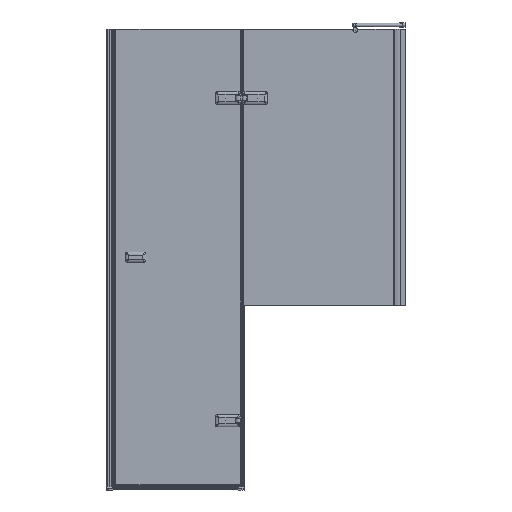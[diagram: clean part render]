
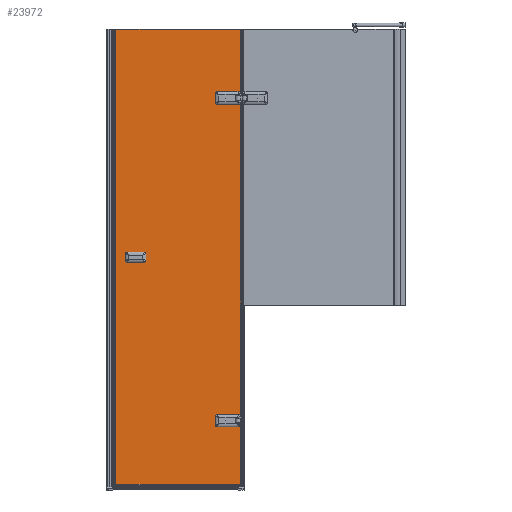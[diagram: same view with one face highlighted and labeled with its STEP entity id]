
A CAD part, front view. The second image highlights one B-rep face of the part: STEP entity #23972.
In plain terms, the highlighted planar face has unit normal (0, -1, 0) as drawn and (0, 1, 0) by its records, which use the part's own axes.
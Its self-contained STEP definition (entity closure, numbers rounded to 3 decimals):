
#1404=LINE($,#35611,#3623);
#1408=LINE($,#35623,#3627);
#1413=LINE($,#35638,#3632);
#1417=LINE($,#35650,#3636);
#1418=LINE($,#35663,#3637);
#1421=LINE($,#35669,#3640);
#1424=LINE($,#35685,#3643);
#1429=LINE($,#35694,#3648);
#1430=LINE($,#35697,#3649);
#1431=LINE($,#35699,#3650);
#1432=LINE($,#35700,#3651);
#1433=LINE($,#35701,#3652);
#3623=VECTOR($,#28213,18.);
#3627=VECTOR($,#28225,32.);
#3632=VECTOR($,#28238,18.);
#3636=VECTOR($,#28250,32.);
#3637=VECTOR($,#28265,32.);
#3640=VECTOR($,#28270,32.);
#3643=VECTOR($,#28287,261.);
#3648=VECTOR($,#28294,281.);
#3649=VECTOR($,#28297,550.);
#3650=VECTOR($,#28298,1980.);
#3651=VECTOR($,#28299,550.);
#3652=VECTOR($,#28300,1362.);
#5830=PLANE($,#25581);
#6643=FACE_BOUND($,#8425,.T.);
#6644=FACE_BOUND($,#8426,.T.);
#6645=FACE_BOUND($,#8427,.T.);
#6646=FACE_BOUND($,#8428,.T.);
#6647=FACE_BOUND($,#8429,.T.);
#8425=EDGE_LOOP($,(#17068));
#8426=EDGE_LOOP($,(#17069));
#8427=EDGE_LOOP($,(#17070,#17071,#17072,#17073,#17074,#17075,#17076,#17077,
#17078,#17079,#17080,#17081,#17082,#17083,#17084,#17085));
#8428=EDGE_LOOP($,(#17086));
#8429=EDGE_LOOP($,(#17087));
#10137=CIRCLE($,#25551,10.);
#10139=CIRCLE($,#25555,10.);
#10141=CIRCLE($,#25559,10.);
#10143=CIRCLE($,#25563,10.);
#10144=CIRCLE($,#25566,5.5);
#10146=CIRCLE($,#25569,5.5);
#10148=CIRCLE($,#25574,8.);
#10150=CIRCLE($,#25577,8.);
#11147=VERTEX_POINT($,#35601);
#11148=VERTEX_POINT($,#35603);
#11150=VERTEX_POINT($,#35609);
#11152=VERTEX_POINT($,#35615);
#11154=VERTEX_POINT($,#35621);
#11157=VERTEX_POINT($,#35628);
#11158=VERTEX_POINT($,#35630);
#11160=VERTEX_POINT($,#35636);
#11162=VERTEX_POINT($,#35642);
#11164=VERTEX_POINT($,#35648);
#11165=VERTEX_POINT($,#35652);
#11167=VERTEX_POINT($,#35657);
#11169=VERTEX_POINT($,#35662);
#11171=VERTEX_POINT($,#35668);
#11173=VERTEX_POINT($,#35674);
#11175=VERTEX_POINT($,#35679);
#11177=VERTEX_POINT($,#35684);
#11180=VERTEX_POINT($,#35692);
#11181=VERTEX_POINT($,#35696);
#11182=VERTEX_POINT($,#35698);
#13514=EDGE_CURVE($,#11147,#11148,#10137,.T.);
#13518=EDGE_CURVE($,#11147,#11150,#1404,.T.);
#13521=EDGE_CURVE($,#11152,#11150,#10139,.T.);
#13524=EDGE_CURVE($,#11152,#11154,#1408,.T.);
#13527=EDGE_CURVE($,#11157,#11158,#10141,.T.);
#13531=EDGE_CURVE($,#11157,#11160,#1413,.T.);
#13534=EDGE_CURVE($,#11162,#11160,#10143,.T.);
#13537=EDGE_CURVE($,#11162,#11164,#1417,.T.);
#13538=EDGE_CURVE($,#11165,#11165,#10144,.T.);
#13540=EDGE_CURVE($,#11167,#11167,#10146,.T.);
#13542=EDGE_CURVE($,#11169,#11148,#1418,.T.);
#13545=EDGE_CURVE($,#11171,#11158,#1421,.T.);
#13548=EDGE_CURVE($,#11173,#11173,#10148,.T.);
#13550=EDGE_CURVE($,#11175,#11175,#10150,.T.);
#13552=EDGE_CURVE($,#11177,#11171,#1424,.T.);
#13557=EDGE_CURVE($,#11154,#11180,#1429,.T.);
#13558=EDGE_CURVE($,#11181,#11180,#1430,.T.);
#13559=EDGE_CURVE($,#11182,#11181,#1431,.T.);
#13560=EDGE_CURVE($,#11182,#11177,#1432,.T.);
#13561=EDGE_CURVE($,#11164,#11169,#1433,.T.);
#17068=ORIENTED_EDGE($,*,*,#13538,.T.);
#17069=ORIENTED_EDGE($,*,*,#13540,.T.);
#17070=ORIENTED_EDGE($,*,*,#13542,.T.);
#17071=ORIENTED_EDGE($,*,*,#13514,.F.);
#17072=ORIENTED_EDGE($,*,*,#13518,.T.);
#17073=ORIENTED_EDGE($,*,*,#13521,.F.);
#17074=ORIENTED_EDGE($,*,*,#13524,.T.);
#17075=ORIENTED_EDGE($,*,*,#13557,.T.);
#17076=ORIENTED_EDGE($,*,*,#13558,.F.);
#17077=ORIENTED_EDGE($,*,*,#13559,.F.);
#17078=ORIENTED_EDGE($,*,*,#13560,.T.);
#17079=ORIENTED_EDGE($,*,*,#13552,.T.);
#17080=ORIENTED_EDGE($,*,*,#13545,.T.);
#17081=ORIENTED_EDGE($,*,*,#13527,.F.);
#17082=ORIENTED_EDGE($,*,*,#13531,.T.);
#17083=ORIENTED_EDGE($,*,*,#13534,.F.);
#17084=ORIENTED_EDGE($,*,*,#13537,.T.);
#17085=ORIENTED_EDGE($,*,*,#13561,.T.);
#17086=ORIENTED_EDGE($,*,*,#13550,.T.);
#17087=ORIENTED_EDGE($,*,*,#13548,.T.);
#23972=ADVANCED_FACE($,(#6643,#6644,#6645,#6646,#6647),#5830,.T.);
#25551=AXIS2_PLACEMENT_3D($,#35604,#28206,#28207);
#25555=AXIS2_PLACEMENT_3D($,#35617,#28219,#28220);
#25559=AXIS2_PLACEMENT_3D($,#35631,#28231,#28232);
#25563=AXIS2_PLACEMENT_3D($,#35644,#28244,#28245);
#25566=AXIS2_PLACEMENT_3D($,#35653,#28253,#28254);
#25569=AXIS2_PLACEMENT_3D($,#35658,#28259,#28260);
#25574=AXIS2_PLACEMENT_3D($,#35675,#28275,#28276);
#25577=AXIS2_PLACEMENT_3D($,#35680,#28281,#28282);
#25581=AXIS2_PLACEMENT_3D($,#35695,#28295,#28296);
#28206=DIRECTION('center_axis',(0.,1.,0.));
#28207=DIRECTION('ref_axis',(0.707,0.,-0.707));
#28213=DIRECTION($,(0.,0.,1.));
#28219=DIRECTION('center_axis',(0.,1.,0.));
#28220=DIRECTION('ref_axis',(0.707,0.,0.707));
#28225=DIRECTION($,(-1.,0.,0.));
#28231=DIRECTION('center_axis',(0.,1.,0.));
#28232=DIRECTION('ref_axis',(0.707,0.,-0.707));
#28238=DIRECTION($,(0.,0.,1.));
#28244=DIRECTION('center_axis',(0.,1.,0.));
#28245=DIRECTION('ref_axis',(0.707,0.,0.707));
#28250=DIRECTION($,(-1.,0.,0.));
#28253=DIRECTION('center_axis',(0.,-1.,0.));
#28254=DIRECTION('ref_axis',(-1.,0.,0.));
#28259=DIRECTION('center_axis',(0.,-1.,0.));
#28260=DIRECTION('ref_axis',(-1.,0.,0.));
#28265=DIRECTION($,(1.,0.,0.));
#28270=DIRECTION($,(1.,0.,0.));
#28275=DIRECTION('center_axis',(0.,-1.,0.));
#28276=DIRECTION('ref_axis',(-1.,0.,0.));
#28281=DIRECTION('center_axis',(0.,-1.,0.));
#28282=DIRECTION('ref_axis',(-1.,0.,0.));
#28287=DIRECTION($,(0.,0.,1.));
#28294=DIRECTION($,(0.,0.,1.));
#28295=DIRECTION('center_axis',(0.,1.,0.));
#28296=DIRECTION('ref_axis',(-1.,0.,0.));
#28297=DIRECTION($,(-1.,0.,0.));
#28298=DIRECTION($,(0.,0.,1.));
#28299=DIRECTION($,(-1.,0.,0.));
#28300=DIRECTION($,(0.,0.,1.));
#35601=CARTESIAN_POINT('',(42.,6.,1671.));
#35603=CARTESIAN_POINT('',(32.,6.,1661.));
#35604=CARTESIAN_POINT('Origin',(32.,6.,1671.));
#35609=CARTESIAN_POINT('',(42.,6.,1689.));
#35611=CARTESIAN_POINT($,(42.,6.,849.5));
#35615=CARTESIAN_POINT('',(32.,6.,1699.));
#35617=CARTESIAN_POINT('Origin',(32.,6.,1689.));
#35621=CARTESIAN_POINT('',(0.,6.,1699.));
#35623=CARTESIAN_POINT($,(275.,6.,1699.));
#35628=CARTESIAN_POINT('',(42.,6.,271.));
#35630=CARTESIAN_POINT('',(32.,6.,261.));
#35631=CARTESIAN_POINT('Origin',(32.,6.,271.));
#35636=CARTESIAN_POINT('',(42.,6.,289.));
#35638=CARTESIAN_POINT($,(42.,6.,149.5));
#35642=CARTESIAN_POINT('',(32.,6.,299.));
#35644=CARTESIAN_POINT('Origin',(32.,6.,289.));
#35648=CARTESIAN_POINT('',(0.,6.,299.));
#35650=CARTESIAN_POINT($,(275.,6.,299.));
#35652=CARTESIAN_POINT('',(485.5,6.,976.));
#35653=CARTESIAN_POINT('Origin',(480.,6.,976.));
#35657=CARTESIAN_POINT('',(485.5,6.,1004.));
#35658=CARTESIAN_POINT('Origin',(480.,6.,1004.));
#35662=CARTESIAN_POINT('',(0.,6.,1661.));
#35663=CARTESIAN_POINT($,(296.,6.,1661.));
#35668=CARTESIAN_POINT('',(0.,6.,261.));
#35669=CARTESIAN_POINT($,(296.,6.,261.));
#35674=CARTESIAN_POINT('',(73.,6.,1680.));
#35675=CARTESIAN_POINT('Origin',(65.,6.,1680.));
#35679=CARTESIAN_POINT('',(73.,6.,280.));
#35680=CARTESIAN_POINT('Origin',(65.,6.,280.));
#35684=CARTESIAN_POINT('',(0.,6.,0.));
#35685=CARTESIAN_POINT($,(0.,6.,0.));
#35692=CARTESIAN_POINT('',(0.,6.,1980.));
#35694=CARTESIAN_POINT($,(0.,6.,0.));
#35695=CARTESIAN_POINT('Origin',(550.,6.,0.));
#35696=CARTESIAN_POINT('',(550.,6.,1980.));
#35697=CARTESIAN_POINT($,(550.,6.,1980.));
#35698=CARTESIAN_POINT('',(550.,6.,0.));
#35699=CARTESIAN_POINT($,(550.,6.,0.));
#35700=CARTESIAN_POINT($,(550.,6.,0.));
#35701=CARTESIAN_POINT($,(0.,6.,0.));
